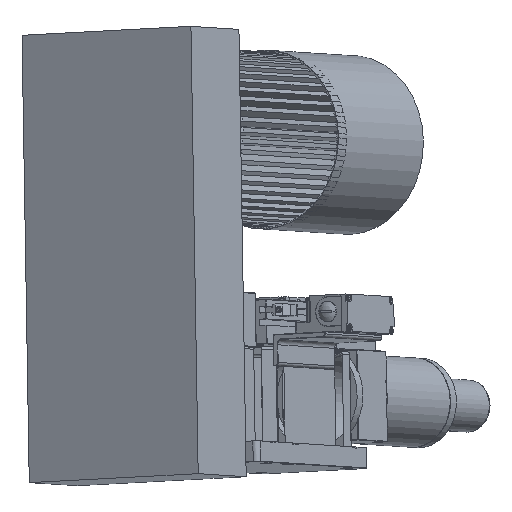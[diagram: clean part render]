
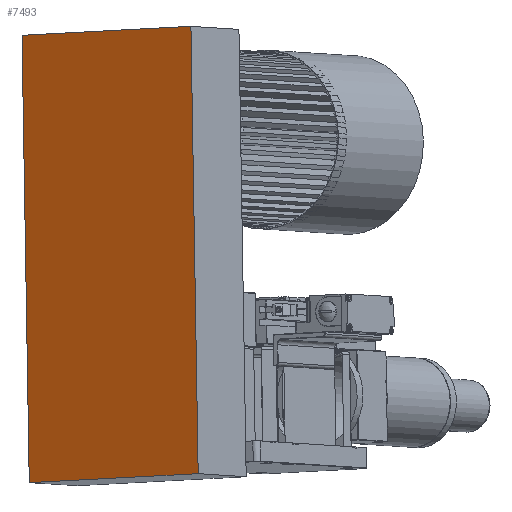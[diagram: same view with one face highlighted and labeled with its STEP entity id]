
A CAD part, left-side view. The second image highlights one B-rep face of the part: STEP entity #7493.
In plain terms, the highlighted planar face has unit normal (-0.827, 0.562, 0.036).
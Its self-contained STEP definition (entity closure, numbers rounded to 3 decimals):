
#7454=CARTESIAN_POINT('',(-173.694,109.967,208.609));
#7455=DIRECTION('',(0.826,-0.562,-0.036));
#7456=DIRECTION('',(0.56,0.827,-0.044));
#7457=AXIS2_PLACEMENT_3D('',#7454,#7455,#7456);
#7458=PLANE('',#7457);
#7459=CARTESIAN_POINT('',(-216.968,32.391,427.557));
#7460=VERTEX_POINT('',#7459);
#7461=CARTESIAN_POINT('',(-107.138,194.501,418.974));
#7462=VERTEX_POINT('',#7461);
#7463=CARTESIAN_POINT('',(-216.968,32.391,427.557));
#7464=DIRECTION('',(0.56,0.827,-0.044));
#7465=VECTOR('',#7464,196.);
#7466=LINE('',#7463,#7465);
#7467=EDGE_CURVE('',#7460,#7462,#7466,.T.);
#7468=ORIENTED_EDGE('',*,*,#7467,.T.);
#7469=CARTESIAN_POINT('',(-130.42,187.543,-10.339));
#7470=VERTEX_POINT('',#7469);
#7471=CARTESIAN_POINT('',(-107.138,194.501,418.974));
#7472=DIRECTION('',(-0.054,-0.016,-0.998));
#7473=VECTOR('',#7472,430.);
#7474=LINE('',#7471,#7473);
#7475=EDGE_CURVE('',#7462,#7470,#7474,.T.);
#7476=ORIENTED_EDGE('',*,*,#7475,.T.);
#7477=CARTESIAN_POINT('',(-240.25,25.433,-1.755));
#7478=VERTEX_POINT('',#7477);
#7479=CARTESIAN_POINT('',(-130.42,187.543,-10.339));
#7480=DIRECTION('',(-0.56,-0.827,0.044));
#7481=VECTOR('',#7480,196.);
#7482=LINE('',#7479,#7481);
#7483=EDGE_CURVE('',#7470,#7478,#7482,.T.);
#7484=ORIENTED_EDGE('',*,*,#7483,.T.);
#7485=CARTESIAN_POINT('',(-240.25,25.433,-1.755));
#7486=DIRECTION('',(0.054,0.016,0.998));
#7487=VECTOR('',#7486,430.);
#7488=LINE('',#7485,#7487);
#7489=EDGE_CURVE('',#7478,#7460,#7488,.T.);
#7490=ORIENTED_EDGE('',*,*,#7489,.T.);
#7491=EDGE_LOOP('',(#7468,#7476,#7484,#7490));
#7492=FACE_OUTER_BOUND('',#7491,.T.);
#7493=ADVANCED_FACE('',(#7492),#7458,.F.);
